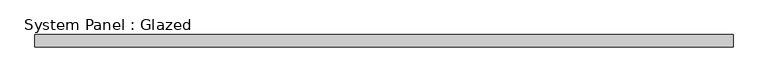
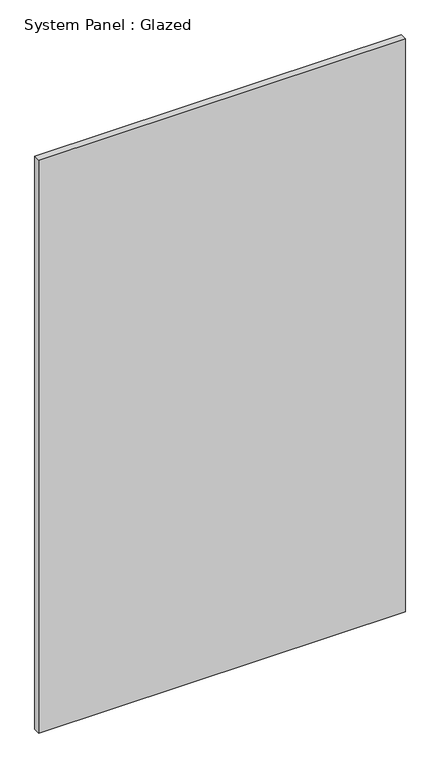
"""IFC4 building model written with IfcOpenShell, lengths in millimetres: plate geometry, System Panel : Glazed."""

from ifc_helpers import new_model, si_unit, origin, origin_with_axes, place, context, project, spatial, polyline, outline, extrude, source, transform, mapped, element, save


def system_panel_glazed_cc66bac8(model_context):
    return source(origin(), model_context, "Body", "SweptSolid", [
        extrude(outline(polyline([(704.0732534, 24.5), (-704.0732534, 24.5), (-704.0732534, 49.5), (704.0732534, 49.5), (704.0732534, 24.5)])), origin_with_axes(), (0.0, 0.0, 1.0), 2325.0),
    ])


if __name__ == "__main__":
    model = new_model("IFC4")
    model_context = context("Model", 3, world=origin())
    ifc_project = project(units=[si_unit("LENGTHUNIT", "METRE", prefix="MILLI")], contexts=[model_context])
    site = spatial("IfcSite", under=ifc_project)
    building = spatial("IfcBuilding", under=site)
    placement = place(None, origin())
    system_panel_glazed_shape = system_panel_glazed_cc66bac8(model_context)
    element("IfcPlate", 1, ObjectType="System Panel : Glazed", at=placement, inside=building, context=model_context, shape_type="MappedRepresentation", body=[
        mapped(system_panel_glazed_shape, transform((0.0, 0.0, 0.0), x_axis=(1.0, 0.0, 0.0), y_axis=(0.0, 1.0, 0.0), z_axis=(0.0, 0.0, 1.0))),
    ])
    save(model, "model.ifc")
